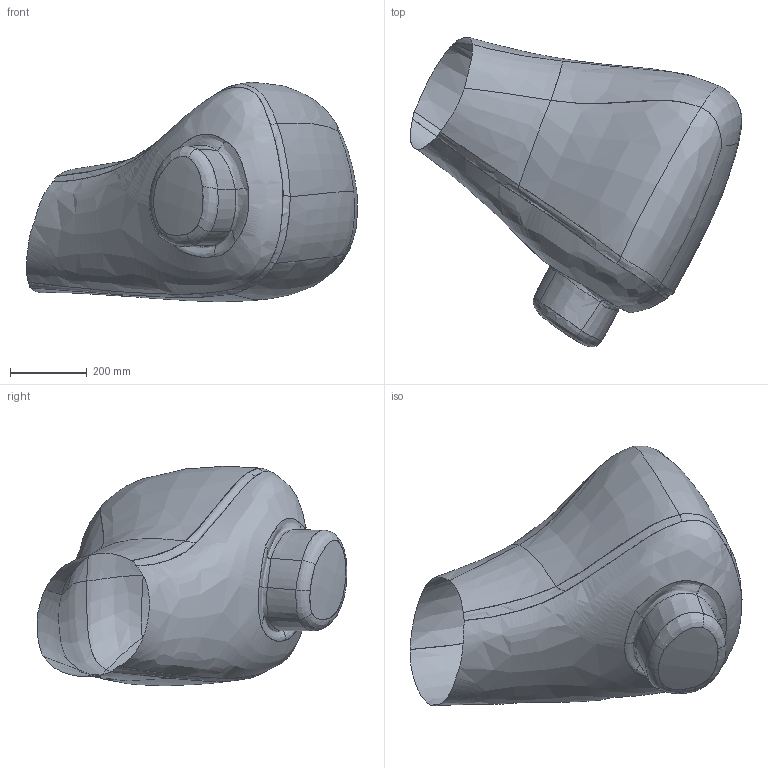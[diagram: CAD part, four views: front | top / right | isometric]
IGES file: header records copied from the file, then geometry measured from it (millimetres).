
Global section: file name: D:\RhinoResurf(v1.01)\multi_surface\shoubing\weiguo.igs; native system: Rhinoceros ( Oct 17 2007 ); preprocessor: Trout Lake IGES 012 Oct 17 2007; date: 080318.073717; units: centimetre
Bounding box: 863.82 x 808.43 x 572.65 mm (x, y, z)
Surface area: 1515596.7 mm2 (no closed solid volume)
Topology: 0 solids, 0 shells, 45 faces, 747 edges, 747 vertices
Faces by surface type: bspline 45
